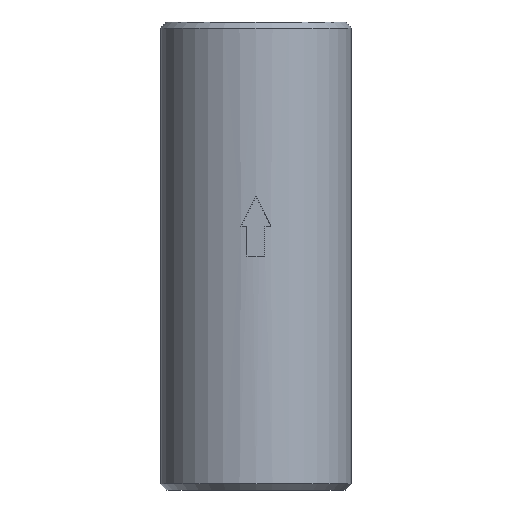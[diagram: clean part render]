
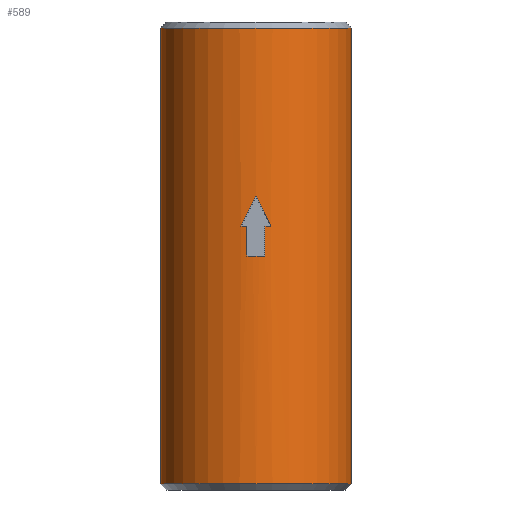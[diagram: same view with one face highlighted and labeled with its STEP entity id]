
A CAD part, front view. The second image highlights one B-rep face of the part: STEP entity #589.
In plain terms, the highlighted cylindrical face has radius 15.875 mm (diameter 31.75 mm), a partial arc.
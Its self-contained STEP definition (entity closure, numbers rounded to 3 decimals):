
#2 = CARTESIAN_POINT ( 'NONE',  ( 0., 0., 38. ) ) ;
#8 = ORIENTED_EDGE ( 'NONE', *, *, #549, .F. ) ;
#9 = CARTESIAN_POINT ( 'NONE',  ( 0., -15.875, 10. ) ) ;
#11 =( BOUNDED_CURVE ( )  B_SPLINE_CURVE ( 3, ( #298, #450, #306, #817 ),
 .UNSPECIFIED., .F., .T. ) 
 B_SPLINE_CURVE_WITH_KNOTS ( ( 4, 4 ),
 ( 1.571, 1.729 ),
 .UNSPECIFIED. ) 
 CURVE ( )  GEOMETRIC_REPRESENTATION_ITEM ( )  RATIONAL_B_SPLINE_CURVE ( ( 1., 0.998, 0.998, 1. ) ) 
 REPRESENTATION_ITEM ( '' )  );
#33 = ORIENTED_EDGE ( 'NONE', *, *, #321, .F. ) ;
#37 = CARTESIAN_POINT ( 'NONE',  ( -1.5, -15.804, 39. ) ) ;
#50 = VERTEX_POINT ( 'NONE', #759 ) ;
#109 = FACE_BOUND ( 'NONE', #496, .T. ) ;
#112 = DIRECTION ( 'NONE',  ( 1., 0., 0. ) ) ;
#117 = CARTESIAN_POINT ( 'NONE',  ( 0., 0., -38. ) ) ;
#128 = ORIENTED_EDGE ( 'NONE', *, *, #814, .T. ) ;
#136 = CIRCLE ( 'NONE', #900, 15.875 ) ;
#142 = CARTESIAN_POINT ( 'NONE',  ( 1.5, -15.804, 39. ) ) ;
#145 = DIRECTION ( 'NONE',  ( 0., 0., 1. ) ) ;
#152 = CARTESIAN_POINT ( 'NONE',  ( 0., -15.875, 10. ) ) ;
#161 = ORIENTED_EDGE ( 'NONE', *, *, #354, .F. ) ;
#186 = LINE ( 'NONE', #37, #592 ) ;
#195 = AXIS2_PLACEMENT_3D ( 'NONE', #892, #895, #514 ) ;
#210 = CARTESIAN_POINT ( 'NONE',  ( 0., 0., 5. ) ) ;
#218 = AXIS2_PLACEMENT_3D ( 'NONE', #2, #805, #738 ) ;
#223 = EDGE_CURVE ( 'NONE', #791, #628, #458, .T. ) ;
#228 = CIRCLE ( 'NONE', #195, 15.875 ) ;
#230 = CARTESIAN_POINT ( 'NONE',  ( 2.5, -15.677, 5. ) ) ;
#247 = EDGE_CURVE ( 'NONE', #628, #685, #711, .T. ) ;
#253 = DIRECTION ( 'NONE',  ( 0., 0., 1. ) ) ;
#269 = DIRECTION ( 'NONE',  ( 0., 0., 1. ) ) ;
#270 = EDGE_CURVE ( 'NONE', #50, #586, #360, .T. ) ;
#278 = CARTESIAN_POINT ( 'NONE',  ( -2.5, -15.677, 5. ) ) ;
#287 = ORIENTED_EDGE ( 'NONE', *, *, #457, .F. ) ;
#298 = CARTESIAN_POINT ( 'NONE',  ( 0., -15.875, 10. ) ) ;
#306 = CARTESIAN_POINT ( 'NONE',  ( -1.673, -15.809, 6.654 ) ) ;
#308 = CARTESIAN_POINT ( 'NONE',  ( 2.5, -15.677, 5. ) ) ;
#321 = EDGE_CURVE ( 'NONE', #746, #50, #511, .T. ) ;
#323 = DIRECTION ( 'NONE',  ( 1., 0., 0. ) ) ;
#354 = EDGE_CURVE ( 'NONE', #586, #491, #136, .T. ) ;
#360 = LINE ( 'NONE', #142, #666 ) ;
#381 = LINE ( 'NONE', #529, #777 ) ;
#398 = CARTESIAN_POINT ( 'NONE',  ( 0., 0., 39. ) ) ;
#399 = EDGE_LOOP ( 'NONE', ( #903, #896, #451, #128 ) ) ;
#409 = VECTOR ( 'NONE', #561, 1000. ) ;
#422 = ORIENTED_EDGE ( 'NONE', *, *, #550, .F. ) ;
#427 = CARTESIAN_POINT ( 'NONE',  ( -1.5, -15.804, 0. ) ) ;
#433 = AXIS2_PLACEMENT_3D ( 'NONE', #564, #782, #852 ) ;
#441 = AXIS2_PLACEMENT_3D ( 'NONE', #398, #253, #323 ) ;
#445 = ORIENTED_EDGE ( 'NONE', *, *, #270, .F. ) ;
#450 = CARTESIAN_POINT ( 'NONE',  ( -0.838, -15.875, 8.325 ) ) ;
#451 = ORIENTED_EDGE ( 'NONE', *, *, #247, .T. ) ;
#457 = EDGE_CURVE ( 'NONE', #465, #713, #11, .T. ) ;
#458 = CIRCLE ( 'NONE', #821, 15.875 ) ;
#462 = EDGE_CURVE ( 'NONE', #791, #709, #381, .T. ) ;
#464 = CARTESIAN_POINT ( 'NONE',  ( 15.875, 0., -38. ) ) ;
#465 = VERTEX_POINT ( 'NONE', #9 ) ;
#491 = VERTEX_POINT ( 'NONE', #230 ) ;
#496 = EDGE_LOOP ( 'NONE', ( #33, #422, #8, #287, #636, #161, #445 ) ) ;
#511 = CIRCLE ( 'NONE', #433, 15.875 ) ;
#514 = DIRECTION ( 'NONE',  ( 1., 0., 0. ) ) ;
#529 = CARTESIAN_POINT ( 'NONE',  ( -15.875, 0., 39. ) ) ;
#533 = VERTEX_POINT ( 'NONE', #812 ) ;
#544 = CARTESIAN_POINT ( 'NONE',  ( 1.5, -15.804, 5. ) ) ;
#549 = EDGE_CURVE ( 'NONE', #713, #533, #228, .T. ) ;
#550 = EDGE_CURVE ( 'NONE', #533, #746, #186, .T. ) ;
#561 = DIRECTION ( 'NONE',  ( 0., 0., 1. ) ) ;
#564 = CARTESIAN_POINT ( 'NONE',  ( 0., 0., 0. ) ) ;
#586 = VERTEX_POINT ( 'NONE', #544 ) ;
#587 = DIRECTION ( 'NONE',  ( 0., 0., 1. ) ) ;
#589 = ADVANCED_FACE ( 'NONE', ( #831, #109 ), #754, .T. ) ;
#592 = VECTOR ( 'NONE', #616, 1000. ) ;
#598 = CARTESIAN_POINT ( 'NONE',  ( 1.673, -15.809, 6.654 ) ) ;
#616 = DIRECTION ( 'NONE',  ( 0., 0., -1. ) ) ;
#626 = DIRECTION ( 'NONE',  ( 0., 0., 1. ) ) ;
#628 = VERTEX_POINT ( 'NONE', #464 ) ;
#636 = ORIENTED_EDGE ( 'NONE', *, *, #854, .F. ) ;
#639 = CARTESIAN_POINT ( 'NONE',  ( 15.875, 0., 39. ) ) ;
#666 = VECTOR ( 'NONE', #269, 1000. ) ;
#685 = VERTEX_POINT ( 'NONE', #929 ) ;
#704 = DIRECTION ( 'NONE',  ( 1., 0., 0. ) ) ;
#705 = CARTESIAN_POINT ( 'NONE',  ( -15.875, 0., 38. ) ) ;
#709 = VERTEX_POINT ( 'NONE', #705 ) ;
#711 = LINE ( 'NONE', #639, #409 ) ;
#713 = VERTEX_POINT ( 'NONE', #278 ) ;
#738 = DIRECTION ( 'NONE',  ( -1., 0., 0. ) ) ;
#746 = VERTEX_POINT ( 'NONE', #427 ) ;
#754 = CYLINDRICAL_SURFACE ( 'NONE', #441, 15.875 ) ;
#758 =( BOUNDED_CURVE ( )  B_SPLINE_CURVE ( 3, ( #308, #598, #891, #152 ),
 .UNSPECIFIED., .F., .T. ) 
 B_SPLINE_CURVE_WITH_KNOTS ( ( 4, 4 ),
 ( 4.554, 4.712 ),
 .UNSPECIFIED. ) 
 CURVE ( )  GEOMETRIC_REPRESENTATION_ITEM ( )  RATIONAL_B_SPLINE_CURVE ( ( 1., 0.998, 0.998, 1. ) ) 
 REPRESENTATION_ITEM ( '' )  );
#759 = CARTESIAN_POINT ( 'NONE',  ( 1.5, -15.804, 0. ) ) ;
#777 = VECTOR ( 'NONE', #587, 1000. ) ;
#782 = DIRECTION ( 'NONE',  ( 0., 0., 1. ) ) ;
#791 = VERTEX_POINT ( 'NONE', #873 ) ;
#797 = CIRCLE ( 'NONE', #218, 15.875 ) ;
#805 = DIRECTION ( 'NONE',  ( 0., 0., -1. ) ) ;
#812 = CARTESIAN_POINT ( 'NONE',  ( -1.5, -15.804, 5. ) ) ;
#814 = EDGE_CURVE ( 'NONE', #685, #709, #797, .T. ) ;
#817 = CARTESIAN_POINT ( 'NONE',  ( -2.5, -15.677, 5. ) ) ;
#821 = AXIS2_PLACEMENT_3D ( 'NONE', #117, #626, #704 ) ;
#831 = FACE_OUTER_BOUND ( 'NONE', #399, .T. ) ;
#852 = DIRECTION ( 'NONE',  ( 1., 0., 0. ) ) ;
#854 = EDGE_CURVE ( 'NONE', #491, #465, #758, .T. ) ;
#873 = CARTESIAN_POINT ( 'NONE',  ( -15.875, 0., -38. ) ) ;
#891 = CARTESIAN_POINT ( 'NONE',  ( 0.838, -15.875, 8.325 ) ) ;
#892 = CARTESIAN_POINT ( 'NONE',  ( 0., 0., 5. ) ) ;
#895 = DIRECTION ( 'NONE',  ( 0., 0., 1. ) ) ;
#896 = ORIENTED_EDGE ( 'NONE', *, *, #223, .T. ) ;
#900 = AXIS2_PLACEMENT_3D ( 'NONE', #210, #145, #112 ) ;
#903 = ORIENTED_EDGE ( 'NONE', *, *, #462, .F. ) ;
#929 = CARTESIAN_POINT ( 'NONE',  ( 15.875, 0., 38. ) ) ;
